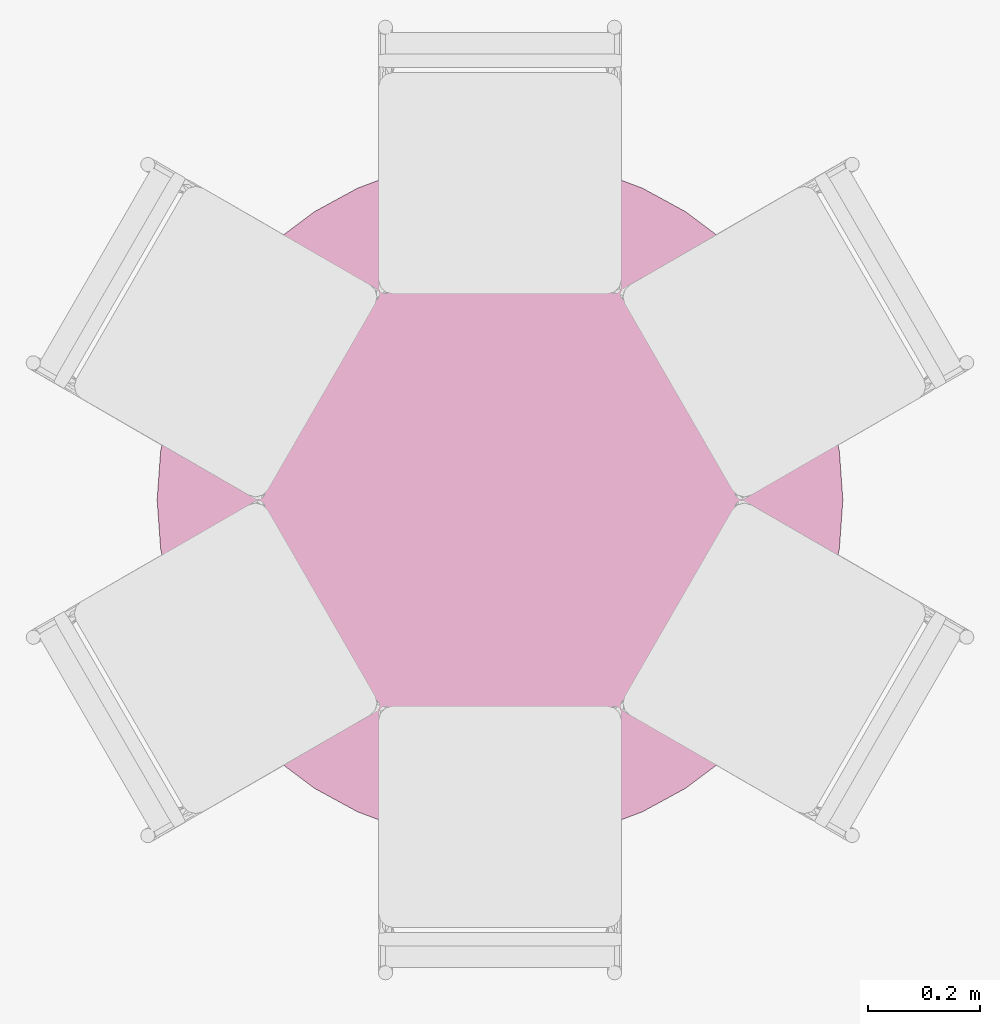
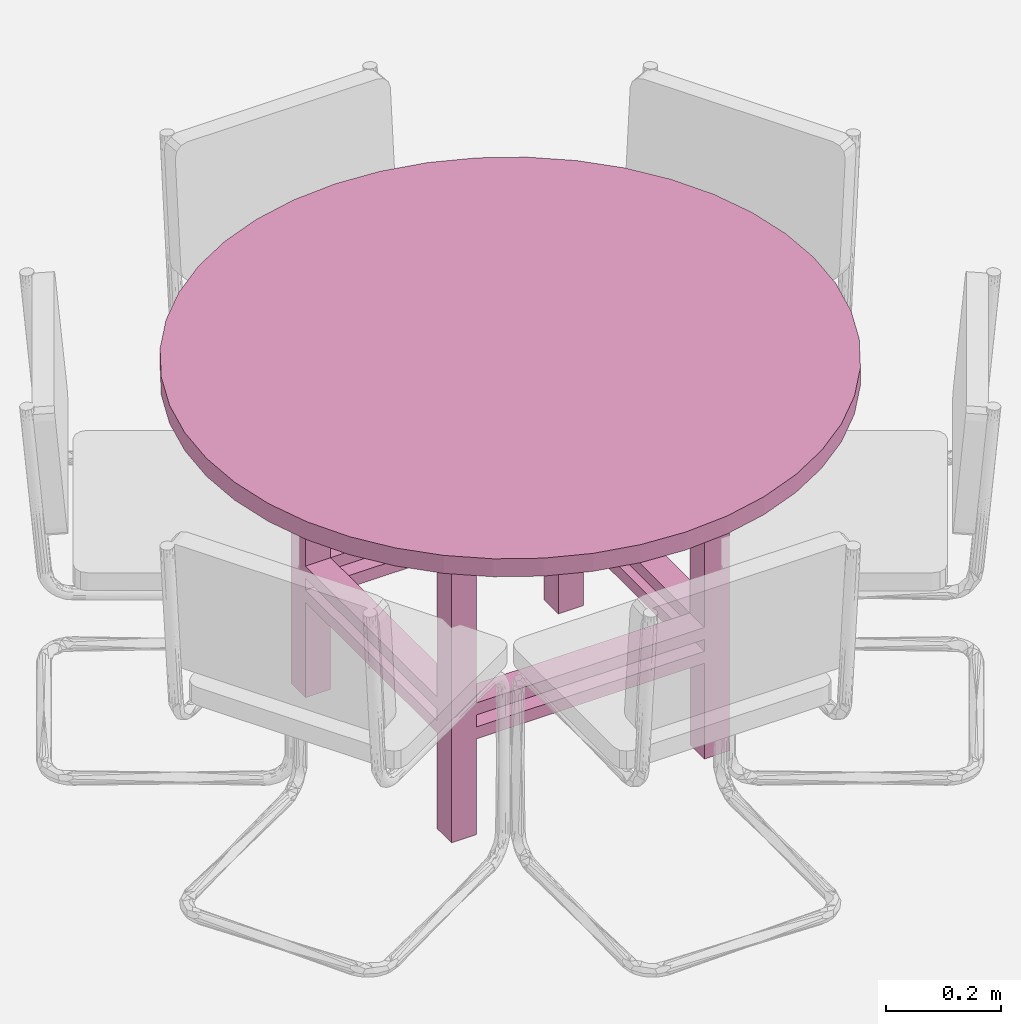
# One storey, part 19 of 21: 1 furnishing.
"""IFC2X3 building model written with IfcOpenShell, lengths in feet."""

from ifc_helpers import new_model, entity, si_unit, converted_unit, derived_unit, direction, frame, origin, place, context, subcontext, project, spatial, faceted_brep, source, transform, mapped, material, material_list, type_object, type_shapes, element, save


model = new_model("IFC2X3")

# Units and contexts
model_context = context("Model", 3, precision=0.0001, world=origin(), true_north=direction((6.12303176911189e-17, 1.0)))
body_context = subcontext(model_context, "Body", "Model", "MODEL_VIEW")
ifc_project = project(units=[converted_unit("LENGTHUNIT", "FOOT", entity("IfcRatioMeasure", 0.3048), si_unit("LENGTHUNIT", "METRE"), dimensions=[1, 0, 0, 0, 0, 0, 0]), converted_unit("AREAUNIT", "SQUARE FOOT", entity("IfcRatioMeasure", 0.09290304), si_unit("AREAUNIT", "SQUARE_METRE"), dimensions=[2, 0, 0, 0, 0, 0, 0]), converted_unit("VOLUMEUNIT", "CUBIC FOOT", entity("IfcRatioMeasure", 0.028316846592), si_unit("VOLUMEUNIT", "CUBIC_METRE"), dimensions=[3, 0, 0, 0, 0, 0, 0]), converted_unit("PLANEANGLEUNIT", "DEGREE", entity("IfcRatioMeasure", 0.0174532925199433), si_unit("PLANEANGLEUNIT", "RADIAN"), dimensions=[0, 0, 0, 0, 0, 0, 0]), si_unit("MASSUNIT", "GRAM", prefix="KILO"), derived_unit("MASSDENSITYUNIT", [(si_unit("MASSUNIT", "GRAM", prefix="KILO"), 1), (si_unit("LENGTHUNIT", "METRE"), -3)]), si_unit("TIMEUNIT", "SECOND"), si_unit("FREQUENCYUNIT", "HERTZ"), si_unit("THERMODYNAMICTEMPERATUREUNIT", "DEGREE_CELSIUS"), derived_unit("THERMALTRANSMITTANCEUNIT", [(si_unit("MASSUNIT", "GRAM", prefix="KILO"), 1), (si_unit("THERMODYNAMICTEMPERATUREUNIT", "KELVIN"), -1), (si_unit("TIMEUNIT", "SECOND"), -3)]), derived_unit("VOLUMETRICFLOWRATEUNIT", [(si_unit("LENGTHUNIT", "METRE"), 3), (si_unit("TIMEUNIT", "SECOND"), -1)]), si_unit("ELECTRICCURRENTUNIT", "AMPERE"), si_unit("ELECTRICVOLTAGEUNIT", "VOLT"), si_unit("POWERUNIT", "WATT"), si_unit("FORCEUNIT", "NEWTON"), si_unit("ILLUMINANCEUNIT", "LUX"), si_unit("LUMINOUSFLUXUNIT", "LUMEN"), si_unit("LUMINOUSINTENSITYUNIT", "CANDELA"), derived_unit("USERDEFINED", [(si_unit("MASSUNIT", "GRAM", prefix="KILO"), -1), (si_unit("LENGTHUNIT", "METRE"), -2), (si_unit("TIMEUNIT", "SECOND"), 3), (si_unit("LUMINOUSFLUXUNIT", "LUMEN"), 1)]), derived_unit("LINEARVELOCITYUNIT", [(si_unit("LENGTHUNIT", "METRE"), 1), (si_unit("TIMEUNIT", "SECOND"), -1)]), si_unit("PRESSUREUNIT", "PASCAL"), derived_unit("USERDEFINED", [(si_unit("LENGTHUNIT", "METRE"), -2), (si_unit("MASSUNIT", "GRAM", prefix="KILO"), 1), (si_unit("TIMEUNIT", "SECOND"), -2)])], contexts=[model_context])

# Site, building, storey
site_placement = place(None, origin())
site = spatial("IfcSite", under=ifc_project, at=site_placement, Name="表面", CompositionType="ELEMENT")
building_placement = place(site_placement, origin())
building = spatial("IfcBuilding", under=site, at=building_placement, CompositionType="ELEMENT")
storey_placement = place(building_placement, origin())
storey = spatial("IfcBuildingStorey", under=building, at=storey_placement, Name="Level 1", CompositionType="ELEMENT", Elevation=0.0)

# Furnishing
ifc_material_1 = material(Name="Wood - Pine")
ifc_material_2 = material(Name="Laminate - Linen, Matte")
ifc_material_list_1 = material_list([ifc_material_1, ifc_material_2])
ifc_material_list_2 = material_list([ifc_material_1, ifc_material_2])
furniture_type = type_object("IfcFurnitureType", Name="36\" Diameter", material=ifc_material_list_2)
shared_shape = source(origin(), body_context, "Body", "Brep", [
    faceted_brep([(1.09016393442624, 0.143442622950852, 0.916666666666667), (1.09016393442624, -1.35655737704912, 0.916666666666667), (1.25683060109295, -1.35655737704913, 0.916666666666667), (1.25683060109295, 0.143442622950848, 0.916666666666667), (-0.40983606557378, 0.143442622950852, 0.833333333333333), (-0.40983606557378, -1.35655737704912, 0.833333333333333), (-0.576502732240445, -1.3565573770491, 0.833333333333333), (-0.576502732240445, 0.143442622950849, 0.833333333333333), (-0.409836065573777, 0.310109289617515, 0.833333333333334), (-0.409836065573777, 0.310109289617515, 0.75), (1.09016393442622, 0.310109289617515, 0.75), (1.09016393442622, 0.310109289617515, 0.833333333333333), (-0.576502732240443, 0.310109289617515, 2.125), (-0.409836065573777, 0.310109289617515, 2.125), (-0.409836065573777, 0.310109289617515, 0.916666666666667), (1.09016393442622, 0.310109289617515, 0.916666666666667), (1.09016393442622, 0.310109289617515, 2.125), (1.25683060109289, 0.310109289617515, 2.125), (1.25683060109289, 0.310109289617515, 0.0), (1.09016393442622, 0.310109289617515, 0.0), (1.09016393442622, 0.310109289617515, 0.666666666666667), (-0.409836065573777, 0.310109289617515, 0.666666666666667), (-0.409836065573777, 0.310109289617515, 0.0), (-0.576502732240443, 0.310109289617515, 0.0), (-0.576502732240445, -1.3565573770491, 0.75), (-0.576502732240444, 0.143442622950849, 0.75), (-0.576502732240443, 0.143442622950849, 2.125), (-0.576502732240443, 0.143442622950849, 0.0), (-0.576502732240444, 0.143442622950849, 0.666666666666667), (-0.576502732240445, -1.3565573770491, 0.666666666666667), (-0.576502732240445, -1.3565573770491, 0.0), (-0.57650273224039, -1.52322404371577, 0.0), (-0.57650273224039, -1.52322404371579, 2.125), (-0.57650273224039, -1.3565573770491, 2.125), (-0.576502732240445, -1.3565573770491, 0.916666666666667), (-0.576502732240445, 0.143442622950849, 0.916666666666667), (1.09016393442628, -1.52322404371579, 0.833333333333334), (1.09016393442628, -1.52322404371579, 0.75), (-0.409836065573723, -1.52322404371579, 0.75), (-0.409836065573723, -1.52322404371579, 0.833333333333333), (1.25683060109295, -1.52322404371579, 2.125), (1.09016393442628, -1.52322404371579, 2.125), (1.09016393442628, -1.52322404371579, 0.916666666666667), (-0.409836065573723, -1.52322404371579, 0.916666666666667), (-0.409836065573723, -1.52322404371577, 2.125), (-0.409836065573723, -1.52322404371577, 0.0), (-0.409836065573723, -1.52322404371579, 0.666666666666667), (1.09016393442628, -1.52322404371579, 0.666666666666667), (1.09016393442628, -1.52322404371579, 0.0), (1.25683060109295, -1.52322404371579, 0.0), (1.25683060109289, 0.143442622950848, 2.125), (1.25683060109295, -1.35655737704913, 2.125), (1.25683060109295, -1.35655737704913, 0.0), (1.25683060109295, -1.35655737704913, 0.666666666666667), (1.25683060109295, 0.143442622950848, 0.666666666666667), (1.25683060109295, 0.143442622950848, 0.0), (1.25683060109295, 0.143442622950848, 0.833333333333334), (1.25683060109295, 0.143442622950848, 0.75), (1.25683060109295, -1.35655737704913, 0.75), (1.25683060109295, -1.35655737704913, 0.833333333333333), (1.09016393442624, 0.143442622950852, 0.833333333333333), (1.09016393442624, -1.35655737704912, 0.833333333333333), (-0.40983606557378, -1.35655737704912, 0.916666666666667), (-0.40983606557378, 0.143442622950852, 0.916666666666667), (1.09016393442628, -1.35655737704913, 2.125), (-0.409836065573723, -1.3565573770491, 0.0), (-0.409836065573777, 0.143442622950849, 2.125), (1.09016393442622, 0.143442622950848, 2.125), (-0.409836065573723, -1.3565573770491, 2.125), (1.09016393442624, 0.143442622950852, 0.75), (1.09016393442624, -1.35655737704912, 0.75), (-0.40983606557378, 0.143442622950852, 0.666666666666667), (-0.40983606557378, -1.35655737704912, 0.666666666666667), (1.09016393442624, 0.143442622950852, 0.666666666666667), (1.09016393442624, -1.35655737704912, 0.666666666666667), (-0.40983606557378, -1.35655737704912, 0.75), (-0.40983606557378, 0.143442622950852, 0.75), (1.09016393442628, -1.35655737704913, 0.0), (1.09016393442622, 0.143442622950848, 0.0), (-0.409836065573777, 0.143442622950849, 0.0)], [[[0, 1, 2, 3]], [[4, 5, 6, 7]], [[8, 9, 10, 11], [12, 13, 14, 15, 16, 17, 18, 19, 20, 21, 22, 23]], [[6, 24, 25, 7], [26, 12, 23, 27, 28, 29, 30, 31, 32, 33, 34, 35]], [[36, 37, 38, 39], [40, 41, 42, 43, 44, 32, 31, 45, 46, 47, 48, 49]], [[18, 17, 50, 3, 2, 51, 40, 49, 52, 53, 54, 55], [56, 57, 58, 59]], [[1, 0, 60, 61]], [[62, 1, 61, 5]], [[63, 62, 5, 4]], [[0, 63, 4, 60]], [[41, 40, 51, 64]], [[45, 31, 30, 65]], [[66, 26, 35, 63]], [[13, 66, 63, 14]], [[67, 16, 15, 0]], [[50, 67, 0, 3]], [[64, 51, 2, 1]], [[41, 64, 1, 42]], [[68, 44, 43, 62]], [[33, 68, 62, 34]], [[69, 70, 58, 57]], [[71, 72, 29, 28]], [[70, 69, 73, 74]], [[75, 70, 74, 72]], [[76, 75, 72, 71]], [[69, 76, 71, 73]], [[72, 74, 47, 46]], [[73, 71, 21, 20]], [[74, 73, 54, 53]], [[70, 75, 38, 37]], [[75, 76, 25, 24]], [[76, 69, 10, 9]], [[6, 5, 75, 24]], [[65, 30, 29, 72]], [[5, 39, 38, 75]], [[45, 65, 72, 46]], [[36, 61, 70, 37]], [[77, 48, 47, 74]], [[61, 59, 58, 70]], [[52, 77, 74, 53]], [[56, 60, 69, 57]], [[78, 55, 54, 73]], [[60, 11, 10, 69]], [[19, 78, 73, 20]], [[8, 4, 76, 9]], [[79, 22, 21, 71]], [[4, 7, 25, 76]], [[27, 79, 71, 28]], [[22, 79, 27, 23]], [[48, 77, 52, 49]], [[19, 18, 55, 78]], [[16, 67, 50, 17]], [[44, 68, 33, 32]], [[13, 12, 26, 66]], [[5, 61, 36, 39]], [[60, 4, 8, 11]], [[61, 60, 56, 59]], [[1, 62, 43, 42]], [[62, 63, 35, 34]], [[63, 0, 15, 14]]], outer=[[True], [True], [False, True], [False, True], [False, True], [True, False], [True], [True], [True], [True], [True], [True], [True], [True], [True], [True], [True], [True], [True], [True], [True], [True], [True], [True], [True], [True], [True], [True], [True], [True], [True], [True], [True], [True], [True], [True], [True], [True], [True], [True], [True], [True], [True], [True], [True], [True], [True], [True], [True], [True], [True], [True], [True], [True], [True], [True], [True], [True], [True], [True]]),
    faceted_brep([(1.34016393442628, 0.393442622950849, 2.375), (-0.659836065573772, 0.393442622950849, 2.375), (-0.659836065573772, -1.6065573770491, 2.375), (1.34016393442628, -1.6065573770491, 2.375), (1.25683060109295, 0.310109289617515, 2.375), (1.25683060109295, -1.52322404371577, 2.375), (-0.576502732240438, -1.52322404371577, 2.375), (-0.576502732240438, 0.310109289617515, 2.375), (1.34016393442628, 0.393442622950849, 2.125), (1.34016393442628, -1.6065573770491, 2.125), (-0.659836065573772, -1.6065573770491, 2.125), (-0.659836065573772, 0.393442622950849, 2.125), (1.25683060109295, 0.310109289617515, 2.125), (-0.576502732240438, 0.310109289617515, 2.125), (-0.576502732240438, -1.52322404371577, 2.125), (1.25683060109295, -1.52322404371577, 2.125)], [[[0, 1, 2, 3], [4, 5, 6, 7]], [[8, 9, 10, 11], [12, 13, 14, 15]], [[1, 0, 8, 11]], [[2, 1, 11, 10]], [[3, 2, 10, 9]], [[0, 3, 9, 8]], [[5, 4, 12, 15]], [[6, 5, 15, 14]], [[7, 6, 14, 13]], [[4, 7, 13, 12]]]),
    faceted_brep([(2.25914988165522, -1.17002249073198, 2.37499999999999), (2.15942792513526, -1.43738740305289, 2.37499999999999), (2.02267100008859, -1.68783901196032, 2.37499999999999), (1.85166308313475, -1.91627884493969, 2.37499999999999), (1.6498854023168, -2.11805652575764, 2.37499999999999), (1.42144556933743, -2.28906444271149, 2.37499999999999), (1.17099396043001, -2.42582136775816, 2.375), (0.903629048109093, -2.52554332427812, 2.375), (0.624793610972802, -2.586200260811, 2.375), (0.340163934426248, -2.60655737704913, 2.375), (0.055534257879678, -2.586200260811, 2.375), (-0.223301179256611, -2.52554332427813, 2.375), (-0.490666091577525, -2.42582136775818, 2.375), (-0.741117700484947, -2.2890644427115, 2.375), (-0.969557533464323, -2.11805652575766, 2.375), (-1.17133521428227, -1.91627884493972, 2.375), (-1.34234313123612, -1.68783901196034, 2.375), (-1.47910005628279, -1.43738740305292, 2.375), (-1.57882201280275, -1.17002249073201, 2.375), (-1.63947894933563, -0.89118705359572, 2.375), (-1.65983606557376, -0.606557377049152, 2.375), (-1.63947894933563, -0.32192770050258, 2.375), (-1.57882201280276, -0.0430922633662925, 2.375), (-1.47910005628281, 0.224272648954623, 2.375), (-1.34234313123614, 0.474724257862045, 2.375), (-1.17133521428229, 0.703164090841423, 2.375), (-0.969557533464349, 0.90494177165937, 2.375), (-0.741117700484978, 1.07594968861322, 2.375), (-0.490666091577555, 1.21270661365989, 2.375), (-0.223301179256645, 1.31242857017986, 2.375), (0.0555342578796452, 1.37308550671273, 2.375), (0.340163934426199, 1.39344262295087, 2.375), (0.62479361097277, 1.37308550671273, 2.375), (0.903629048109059, 1.31242857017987, 2.375), (1.17099396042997, 1.21270661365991, 2.375), (1.4214455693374, 1.07594968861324, 2.37499999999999), (1.64988540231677, 0.904941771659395, 2.37499999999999), (1.85166308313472, 0.70316409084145, 2.37499999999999), (2.02267100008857, 0.474724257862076, 2.37499999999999), (2.15942792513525, 0.224272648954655, 2.37499999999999), (2.25914988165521, -0.0430922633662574, 2.37499999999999), (2.31980681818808, -0.321927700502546, 2.37499999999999), (2.34016393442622, -0.606557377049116, 2.37499999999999), (2.31980681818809, -0.891187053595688, 2.37499999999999), (2.31980681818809, -0.891187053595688, 2.49999999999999), (2.34016393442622, -0.606557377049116, 2.49999999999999), (2.31980681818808, -0.321927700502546, 2.49999999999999), (2.25914988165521, -0.0430922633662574, 2.49999999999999), (2.15942792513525, 0.224272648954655, 2.49999999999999), (2.02267100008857, 0.474724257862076, 2.49999999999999), (1.85166308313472, 0.70316409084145, 2.49999999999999), (1.64988540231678, 0.904941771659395, 2.49999999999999), (1.4214455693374, 1.07594968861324, 2.49999999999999), (1.17099396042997, 1.21270661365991, 2.5), (0.90362904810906, 1.31242857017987, 2.5), (0.62479361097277, 1.37308550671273, 2.5), (0.340163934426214, 1.39344262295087, 2.5), (0.0555342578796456, 1.37308550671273, 2.5), (-0.223301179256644, 1.31242857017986, 2.5), (-0.490666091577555, 1.21270661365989, 2.5), (-0.741117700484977, 1.07594968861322, 2.5), (-0.969557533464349, 0.90494177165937, 2.5), (-1.17133521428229, 0.703164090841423, 2.5), (-1.34234313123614, 0.474724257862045, 2.5), (-1.47910005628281, 0.224272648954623, 2.5), (-1.57882201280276, -0.0430922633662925, 2.5), (-1.63947894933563, -0.32192770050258, 2.5), (-1.65983606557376, -0.606557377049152, 2.5), (-1.63947894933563, -0.89118705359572, 2.5), (-1.57882201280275, -1.17002249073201, 2.5), (-1.47910005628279, -1.43738740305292, 2.5), (-1.34234313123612, -1.68783901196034, 2.5), (-1.17133521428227, -1.91627884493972, 2.5), (-0.969557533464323, -2.11805652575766, 2.5), (-0.741117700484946, -2.2890644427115, 2.5), (-0.490666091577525, -2.42582136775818, 2.5), (-0.223301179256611, -2.52554332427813, 2.5), (0.0555342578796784, -2.586200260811, 2.5), (0.340163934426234, -2.60655737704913, 2.5), (0.624793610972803, -2.586200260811, 2.5), (0.903629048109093, -2.52554332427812, 2.5), (1.17099396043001, -2.42582136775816, 2.5), (1.42144556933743, -2.28906444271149, 2.49999999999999), (1.6498854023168, -2.11805652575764, 2.49999999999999), (1.85166308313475, -1.91627884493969, 2.49999999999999), (2.02267100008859, -1.68783901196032, 2.49999999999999), (2.15942792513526, -1.43738740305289, 2.49999999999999), (2.25914988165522, -1.17002249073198, 2.49999999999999)], [[[0, 1, 2, 3, 4, 5, 6, 7, 8, 9, 10, 11, 12, 13, 14, 15, 16, 17, 18, 19, 20, 21, 22, 23, 24, 25, 26, 27, 28, 29, 30, 31, 32, 33, 34, 35, 36, 37, 38, 39, 40, 41, 42, 43]], [[44, 45, 46, 47, 48, 49, 50, 51, 52, 53, 54, 55, 56, 57, 58, 59, 60, 61, 62, 63, 64, 65, 66, 67, 68, 69, 70, 71, 72, 73, 74, 75, 76, 77, 78, 79, 80, 81, 82, 83, 84, 85, 86, 87]], [[12, 75, 74, 13]], [[10, 77, 76, 11]], [[75, 12, 11, 76]], [[13, 74, 73, 14]], [[17, 70, 69, 18]], [[18, 69, 68, 19]], [[15, 72, 71, 16]], [[16, 71, 70, 17]], [[72, 15, 14, 73]], [[19, 68, 67, 20]], [[77, 10, 9, 78]], [[23, 64, 63, 24]], [[21, 66, 65, 22]], [[64, 23, 22, 65]], [[24, 63, 62, 25]], [[28, 59, 58, 29]], [[29, 58, 57, 30]], [[26, 61, 60, 27]], [[27, 60, 59, 28]], [[61, 26, 25, 62]], [[30, 57, 56, 31]], [[66, 21, 20, 67]], [[34, 53, 52, 35]], [[33, 54, 53, 34]], [[35, 52, 51, 36]], [[39, 48, 47, 40]], [[40, 47, 46, 41]], [[37, 50, 49, 38]], [[38, 49, 48, 39]], [[50, 37, 36, 51]], [[41, 46, 45, 42]], [[32, 55, 54, 33]], [[32, 31, 56, 55]], [[1, 86, 85, 2]], [[43, 44, 87, 0]], [[86, 1, 0, 87]], [[2, 85, 84, 3]], [[6, 81, 80, 7]], [[7, 80, 79, 8]], [[4, 83, 82, 5]], [[5, 82, 81, 6]], [[83, 4, 3, 84]], [[8, 79, 78, 9]], [[44, 43, 42, 45]]]),
])
type_shapes(furniture_type, [shared_shape])
furnishing_placement = place(storey_placement, frame((-42.3750770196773, 12.0389510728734, 0.34375)))
element("IfcFurnishingElement", 1, at=furnishing_placement, inside=storey, type_object=furniture_type, material=ifc_material_list_1, Name="Table-Dining Round w Chairs:36\" Diameter", ObjectType="36\" Diameter", context=body_context, shape_type="MappedRepresentation", body=[
    mapped(shared_shape, transform((0.0, 0.0, 0.0), scale=1.0)),
])

save(model, "model.ifc")
